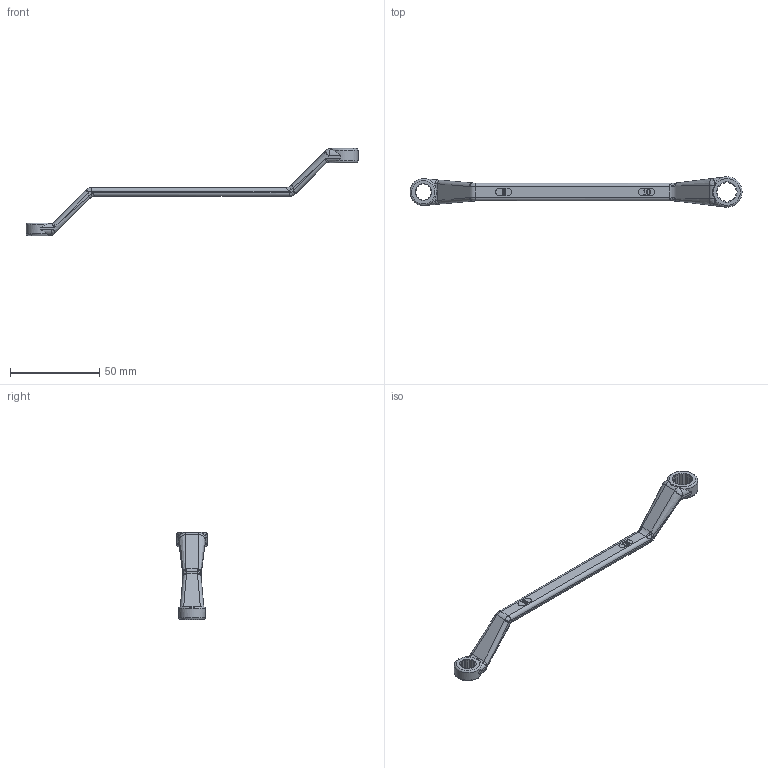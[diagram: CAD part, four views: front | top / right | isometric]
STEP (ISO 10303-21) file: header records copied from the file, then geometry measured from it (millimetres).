
FILE_DESCRIPTION(/* description */ (''),/* implementation_level */ '2;1');
FILE_NAME(/* name */ 'C:\Users\unitec\Documents\Inventor\HP\工具\\X2\3081304C306D30EC30F330C1\X0\\rs-8x10.stp',/* time_stamp */ '2016-03-11T17:12:44+09:00',/* author */ ('unitec'),/* organization */ (''),/* preprocessor_version */ 'ST-DEVELOPER v15.2',/* originating_system */ 'Autodesk Inventor 2014',/* authorisation */ '');
FILE_SCHEMA (('AUTOMOTIVE_DESIGN { 1 0 10303 214 3 1 1 }'));
Length unit declared in the file: millimetre
Products named in the file (1): rs-8x10
Bounding box: 186 x 17 x 48.76 mm (x, y, z)
Volume: 10626.2 mm3; surface area: 6378.6 mm2
Topology: 1 solids, 1 shells, 264 faces, 618 edges, 358 vertices
Faces by surface type: plane 96, bspline 74, cone 48, cylinder 34, torus 12
Entity records: 8893 total; most frequent: CARTESIAN_POINT 3683, ORIENTED_EDGE 1216, DIRECTION 874, EDGE_CURVE 608, VERTEX_POINT 356, AXIS2_PLACEMENT_3D 339, EDGE_LOOP 278, ADVANCED_FACE 264
